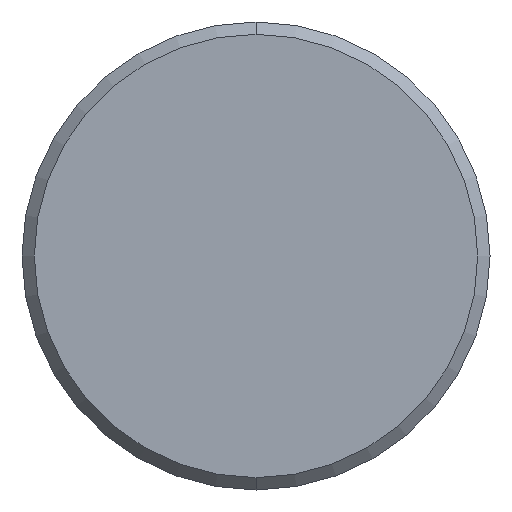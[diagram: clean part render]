
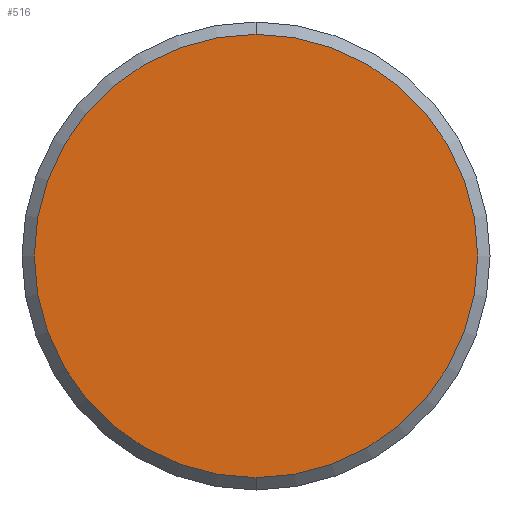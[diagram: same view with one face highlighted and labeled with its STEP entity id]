
A CAD part, front view. The second image highlights one B-rep face of the part: STEP entity #516.
In plain terms, the highlighted planar face has unit normal (0, -1, 0).
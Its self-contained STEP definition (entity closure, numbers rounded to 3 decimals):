
#156 = AXIS2_PLACEMENT_3D ( 'NONE', #201, #552, #367 ) ;
#201 = CARTESIAN_POINT ( 'NONE',  ( 0., 0., 0. ) ) ;
#233 = EDGE_CURVE ( 'NONE', #1010, #244, #732, .T. ) ;
#244 = VERTEX_POINT ( 'NONE', #312 ) ;
#262 = ORIENTED_EDGE ( 'NONE', *, *, #1088, .F. ) ;
#306 = AXIS2_PLACEMENT_3D ( 'NONE', #343, #333, #1050 ) ;
#312 = CARTESIAN_POINT ( 'NONE',  ( 0., 0., 18. ) ) ;
#333 = DIRECTION ( 'NONE',  ( 0., 1., 0. ) ) ;
#343 = CARTESIAN_POINT ( 'NONE',  ( 0., 0., 0. ) ) ;
#367 = DIRECTION ( 'NONE',  ( 0., 0., 1. ) ) ;
#401 = DIRECTION ( 'NONE',  ( 0., 0., 1. ) ) ;
#516 = ADVANCED_FACE ( 'NONE', ( #579 ), #653, .F. ) ;
#552 = DIRECTION ( 'NONE',  ( 0., 1., 0. ) ) ;
#579 = FACE_OUTER_BOUND ( 'NONE', #958, .T. ) ;
#601 = DIRECTION ( 'NONE',  ( 0., 1., 0. ) ) ;
#653 = PLANE ( 'NONE',  #156 ) ;
#706 = AXIS2_PLACEMENT_3D ( 'NONE', #770, #601, #401 ) ;
#732 = CIRCLE ( 'NONE', #706, 18. ) ;
#770 = CARTESIAN_POINT ( 'NONE',  ( 0., 0., 0. ) ) ;
#956 = CIRCLE ( 'NONE', #306, 18. ) ;
#958 = EDGE_LOOP ( 'NONE', ( #975, #262 ) ) ;
#975 = ORIENTED_EDGE ( 'NONE', *, *, #233, .F. ) ;
#1010 = VERTEX_POINT ( 'NONE', #1054 ) ;
#1050 = DIRECTION ( 'NONE',  ( 0., 0., 1. ) ) ;
#1054 = CARTESIAN_POINT ( 'NONE',  ( 0., 0., -18. ) ) ;
#1088 = EDGE_CURVE ( 'NONE', #244, #1010, #956, .T. ) ;
